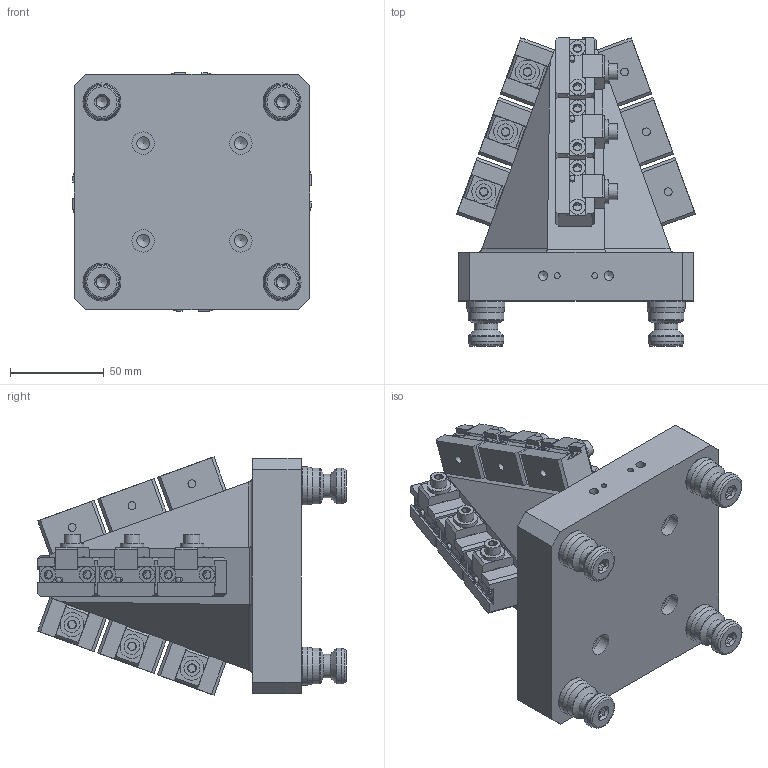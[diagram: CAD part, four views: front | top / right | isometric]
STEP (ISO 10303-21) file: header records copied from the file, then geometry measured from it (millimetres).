
FILE_DESCRIPTION (( 'STEP AP214' ), '1' );
FILE_NAME ('A96-P12DM12_WEBSITE.STEP', '2025-08-11T13:25:50', ( '' ), ( '' ), 'SwSTEP 2.0', 'SolidWorks 2025', '' );
FILE_SCHEMA (( 'AUTOMOTIVE_DESIGN' ));
Length unit declared in the file: inch
Products named in the file (14): D_DM12-1_WEBSITE_D051251WM; D_CLW10M_WEBSITE_CLW10; D_DM12_WEBSITE_Exploded View; D_HW 76124_WEBSITE_90605A129; D_91290A242_BLACK-OXIDE CLASS 12.9 SOCKET HEAD CAP SCREW_WEBSITE_91290A242; D_HW.0203X0500.FW_WEBSITE_DEFAULT; D_HW.LC020CD01M_WEBSITE_1986K65; D_AU-P12DM12-1_WEBSITE; D_39874.CPSS_WEBSITE_91390A162; D_PS20F-1_WEBSITE_HARD TURN; D_91595A100_METRIC ALLOY STEEL DOWEL PIN_WEBSITE_91595A100; A96-P12DM12_WEBSITE; D_91595A108_METRIC ALLOY STEEL DOWEL PIN_WEBSITE_91595A108; D_PS20F_WEBSITE
Assembly tree (29 placements, depth 3):
  A96-P12DM12_WEBSITE
    D_AU-P12DM12-1_WEBSITE
    D_PS20F_WEBSITE  x4
      D_PS20F-1_WEBSITE_HARD TURN
      D_39874.CPSS_WEBSITE_91390A162
    D_DM12_WEBSITE_Exploded View  x12
      D_DM12-1_WEBSITE_D051251WM
      D_CLW10M_WEBSITE_CLW10
      D_HW.0203X0500.FW_WEBSITE_DEFAULT
      D_91595A100_METRIC ALLOY STEEL DOWEL PIN_WEBSITE_91595A100
      D_91595A108_METRIC ALLOY STEEL DOWEL PIN_WEBSITE_91595A108
      D_91290A242_BLACK-OXIDE CLASS 12.9 SOCKET HEAD CAP SCREW_WEBSITE_91290A242
      D_HW 76124_WEBSITE_90605A129
      D_HW.LC020CD01M_WEBSITE_1986K65
Bounding box: 127.13 x 164.45 x 127.13 mm (x, y, z)
Volume: 966234.7 mm3; surface area: 187988.2 mm2
Topology: 129 solids, 129 shells, 2093 faces, 4413 edges, 2718 vertices
Faces by surface type: plane 1122, cylinder 427, cone 416, sphere 72, bspline 36, torus 20
Full cylindrical faces by diameter (mm): 2.997 x36, 3 x36, 3.025 x40, 3.03 x4, 3.3 x2, 4 x2, 4.2 x52, 5 x38, 5.159 x12, 5.182 x12, 5.3 x24, 6.147 x4, 6.756 x12, 6.8 x4, 8.5 x44, 8.6 x24, 10 x8, 12.017 x4, 12.497 x4, 12.7 x12, 15.24 x1, 16.02 x4, 16.297 x4, 19.012 x8, 20.277 x4
Entity records: 12649 total; most frequent: CARTESIAN_POINT 2974, DIRECTION 1769, ORIENTED_EDGE 1220, AXIS2_PLACEMENT_3D 766, EDGE_LOOP 705, EDGE_CURVE 610, FACE_OUTER_BOUND 557, VERTEX_POINT 487
